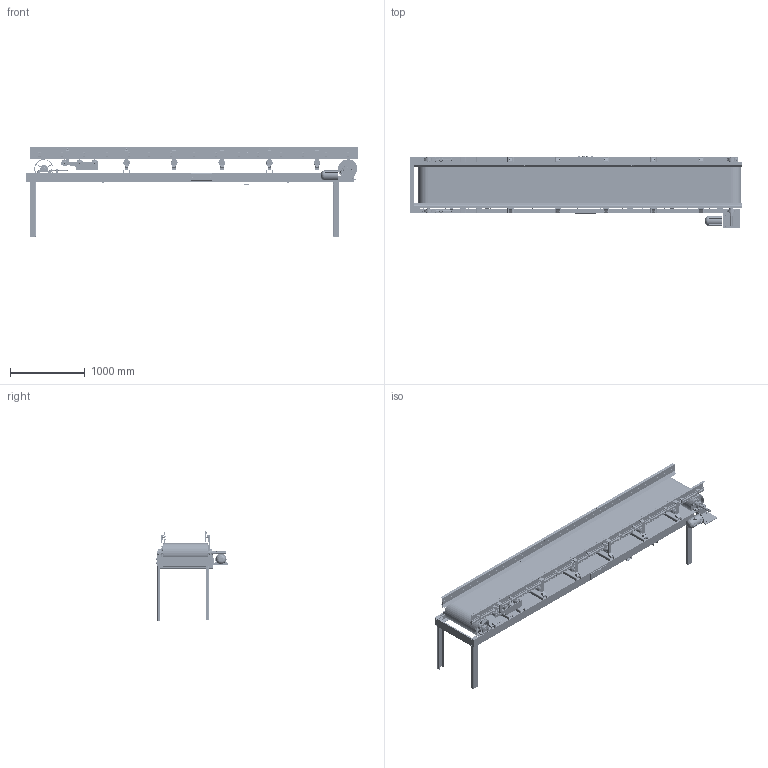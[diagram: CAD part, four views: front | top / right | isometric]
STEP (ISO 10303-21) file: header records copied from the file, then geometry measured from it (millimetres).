
FILE_DESCRIPTION(/* description */ (''),/* implementation_level */ '2;1');
FILE_NAME(/* name */ 'beltconveyor_a050_w530_l4400.stp',/* time_stamp */ '2024-12-22T15:10:43+08:00',/* author */ (''),/* organization */ (''),/* preprocessor_version */ 'ST-DEVELOPER v16.7',/* originating_system */ 'SIEMENS PLM Software NX 12.0',/* authorisation */ '');
FILE_SCHEMA (('AUTOMOTIVE_DESIGN { 1 0 10303 214 3 1 1 1 }'));
Products named in the file (100): 208-474-01cc; 208-474-01c; 208-474-01a; 208-474-01aa; 208-474-03a; 208-474-03c; 208-474-03b; 208-474-03i; 208-474-03d; 208-474-03e; 208-474-01e; 208-474-01h; 208-474-01o; 208-474-01g; 208-474-01b; 208-474-010e; 208-474-010c; 208-474-010b; 208-474-010a; 208-474-06a; 208-474-06b; 20-04; 20-02; 20-01; 20-03; 208-474-02g; 208-474-03j; 208-474-03f; 208-474-03h; 208-474-05b; 208-474-05c; 208-474-05a; 208-474-05aa; 208-474-07; 208-474-012; Cap ScrewM8 x 30 DIN 912; 208-474-08; Cap Screw M6 x 10; 208-474-09; 208-474-05bb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
Assembly tree (334 placements, depth 5):
  beltconveyor_a050_w530_l4400
    m16_nut(shasee)  x16
      Hex Head Bolt - M16 x 40 (DIN 6914)
      prevailing torque nut style  M16x1.5
    Cap ScrewM8 x 20 DIN 912  x4
    ucp208  x4
    208-474-01f  x2
    prevailing torque nut style  M16x1.5  x4
    208-474-010f  x2
    208-474-01i  x4
    Spring Pin 12 x 28 - St  x4
    208-474-011  x2
    208-474-004  x10
      208-474-04c
      208-474-04a
      Radial Ball Bearing 6204
      circlip DIN 471 - 20 x 1.2
      208-474-04b
      20
        20-03
        20-01
        20-02
        20-04
    208-474-02
      Hex Flange Bolt M10 x 25 x 25-N(DIN 6921)  x2
      208-474-02e
      208-474-02d  x2
      8x10x125
      208-474-02c  x2
      208-474-02b  x2
      Gathered Socket Set Screw Flat Point M8 x 25-N(DIN 913) on CircPatter
n.21
        Socket Set Screw Flat Point M8 x 25-N(DIN 913)
      208-474-02a
      Gathered Socket Set Screw Flat Point M8 x 25-N(DIN 913) on CircPatter
n.2
        Socket Set Screw Flat Point M8 x 25-N(DIN 913)
      Socket Set Screw Flat Point M8 x 25-N(DIN 913)  x2
      Gathered Hex Flange Bolt M10 x 25 x 25-N(DIN 6921) on CircPattern.1
        Hex Flange Bolt M10 x 25 x 25-N(DIN 6921)  x3
      Gathered Hex Flange Bolt M10 x 25 x 25-N(DIN 6921) on CircPattern.11
        Hex Flange Bolt M10 x 25 x 25-N(DIN 6921)  x3
    Cap ScrewM8 x 12 DIN 912  x4
    Hex Flange Bolt M10 x 25 x 25-N(DIN 6921)  x4
    208-474-01k  x2
    Hex Bolt M16 x 50  x4
    Hex Bolt M16 x 65 x 65-N  x2
    tegeh-a
      208-474-05cc
      208-474-05bb
      208-474-09  x15
      Cap Screw M6 x 10  x8
      208-474-08  x3
      Cap ScrewM8 x 30 DIN 912  x15
      208-474-012  x2
      208-474-06  x3
        208-474-06b
        208-474-06a
      208-474-07
      208-474-05aa
    208-474-01d  x2
    MVF86N
Bounding box: 4430 x 961.5 x 1200.41 mm (x, y, z)
Volume: 96300406.2 mm3; surface area: 35164997.2 mm2
Topology: 1024 solids, 1024 shells, 28720 faces, 76649 edges, 49971 vertices
Faces by surface type: plane 13645, extrusion 4797, cylinder 4787, cone 1795, torus 1702, sphere 1600, bspline 394
Entity records: 149016 total; most frequent: CARTESIAN_POINT 45429, ORIENTED_EDGE 21788, DIRECTION 19033, EDGE_CURVE 10894, VERTEX_POINT 7246, VECTOR 6945, LINE 6576, AXIS2_PLACEMENT_3D 6044
